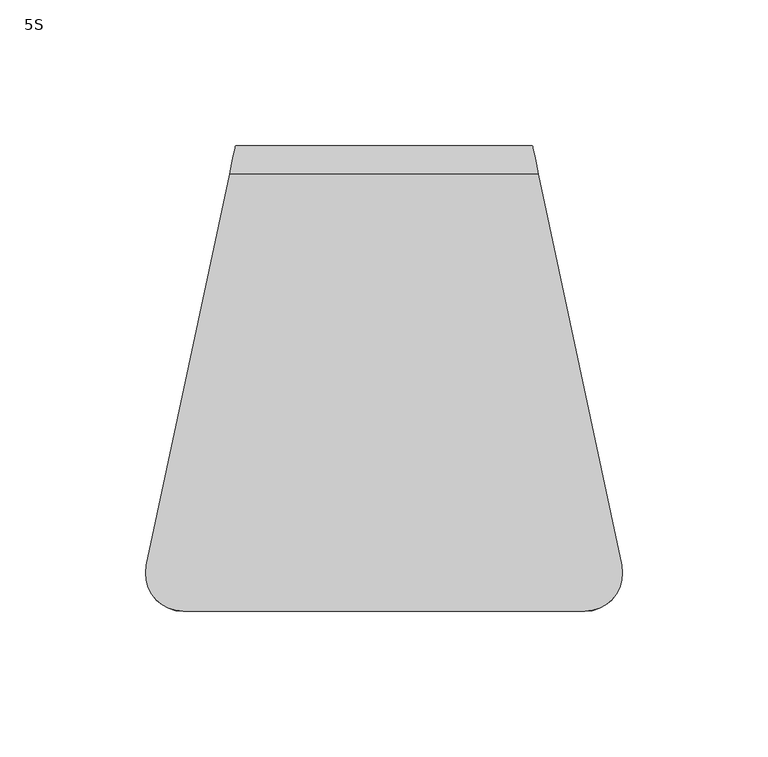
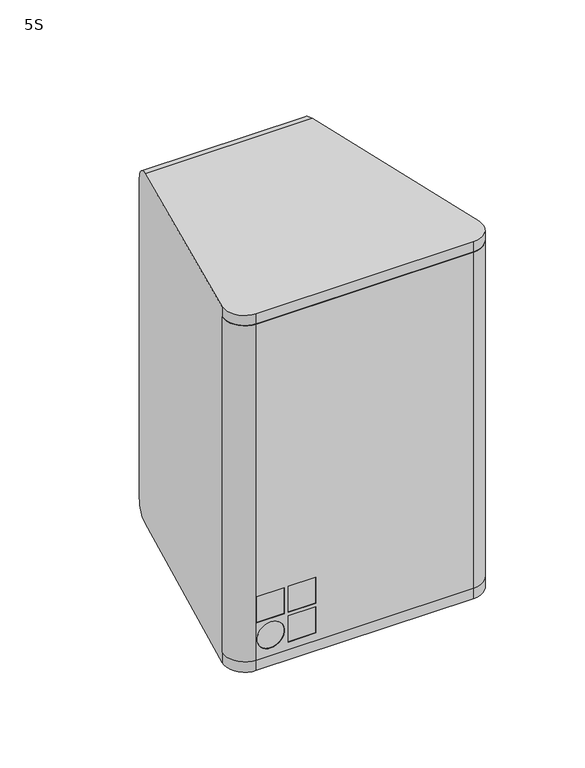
"""IFC4 building model written with IfcOpenShell, lengths in millimetres: proxy geometry, d&b xS-Series 5S Point Source : 5S."""

import ifcopenshell
import ifcopenshell.guid

model = None  # the IFC model being written
_history = None  # IfcOwnerHistory: only IFC2X3 demands one
_inside = {}  # id of a spatial element -> (the spatial element, [elements in it])
_under = {}  # id of a project, library or spatial element -> (it, [spatial elements below it])
_declared = {}  # id of a project -> (the project, [libraries it declares])
_typed = {}  # id of a type object -> (the type object, [elements of that type])
_made_of = {}  # id of a material, layer set ... -> (it, [elements and type objects made of it])


def new_model(schema):
    """Start an empty IFC model of exactly this schema.

    Asked for "IFC4X3", IfcOpenShell would pick the latest addendum, in which some entities
    have other attributes; the version numbers below select the first issue.
    IFC2X3 requires an IfcOwnerHistory on every rooted entity: one is made here for all.
    """
    global model, _history
    if schema == "IFC4X3":
        model = ifcopenshell.file(schema_version=(4, 3, 0, 0))
    else:
        model = ifcopenshell.file(schema=schema)
    _inside.clear()
    _under.clear()
    _declared.clear()
    _typed.clear()
    _made_of.clear()
    _history = None
    if model.schema == "IFC2X3":
        org = make("IfcOrganization", Name="unknown")
        user = make(
            "IfcPersonAndOrganization",
            ThePerson=make("IfcPerson", FamilyName="unknown"),
            TheOrganization=org,
        )
        app = make(
            "IfcApplication",
            ApplicationDeveloper=org,
            Version="unknown",
            ApplicationFullName="unknown",
            ApplicationIdentifier="unknown",
        )
        _history = make(
            "IfcOwnerHistory",
            OwningUser=user,
            OwningApplication=app,
            ChangeAction="ADDED",
            CreationDate=0,
        )
    return model


def make(cls, **values):
    """One entity of the class cls with the attributes given. An attribute that is None is left unset."""
    return model.create_entity(
        cls, **{name: value for name, value in values.items() if value is not None}
    )


def rooted(cls, **values):
    """An entity with a GlobalId (a new one), such as an element, a storey or a relation."""
    return make(cls, GlobalId=ifcopenshell.guid.new(), OwnerHistory=_history, **values)


def si_unit(unit_type, name, prefix=None):
    """IfcSIUnit, for example si_unit("LENGTHUNIT", "METRE", prefix="MILLI")."""
    return make("IfcSIUnit", UnitType=unit_type, Prefix=prefix, Name=name)


def assignment(units):
    """IfcUnitAssignment: the units of a project."""
    return None if units is None else make("IfcUnitAssignment", Units=units)


def point(xyz):
    """IfcCartesianPoint."""
    return None if xyz is None else make("IfcCartesianPoint", Coordinates=xyz)


def direction(xyz):
    """IfcDirection."""
    return None if xyz is None else make("IfcDirection", DirectionRatios=xyz)


def frame(location, z_axis=None, x_axis=None):
    """IfcAxis2Placement3D, a coordinate frame: its origin and axes. An axis left out is left unset."""
    return make(
        "IfcAxis2Placement3D",
        Location=point(location),
        Axis=direction(z_axis),
        RefDirection=direction(x_axis),
    )


def frame_2d(location, x_axis=None):
    """IfcAxis2Placement2D, a coordinate frame in the plane: its origin and x axis."""
    return make(
        "IfcAxis2Placement2D", Location=point(location), RefDirection=direction(x_axis)
    )


def origin():
    """The frame at (0, 0, 0) with its axes left unset."""
    return frame((0.0, 0.0, 0.0))


def place(relative_to, where):
    """IfcLocalPlacement: puts the frame where relative to a parent placement (None: the world)."""
    return make(
        "IfcLocalPlacement", PlacementRelTo=relative_to, RelativePlacement=where
    )


def context(
    kind, dimensions, precision=None, world=None, true_north=None, identifier=None
):
    """IfcGeometricRepresentationContext, for example the 3D "Model" context."""
    return make(
        "IfcGeometricRepresentationContext",
        ContextIdentifier=identifier,
        ContextType=kind,
        CoordinateSpaceDimension=dimensions,
        Precision=precision,
        WorldCoordinateSystem=world,
        TrueNorth=true_north,
    )


def project(units=None, contexts=None):
    """IfcProject with its units and contexts."""
    return rooted(
        "IfcProject",
        Name="project",
        RepresentationContexts=contexts,
        UnitsInContext=assignment(units),
    )


def spatial(cls, under=None, at=None, **own):
    """A site, building, storey or space (cls), placed at a placement, below another one or the project."""
    s = rooted(cls, ObjectPlacement=at, **own)
    if under is not None:
        _under.setdefault(under.id(), (under, []))[1].append(s)
    return s


def polyline(points):
    """IfcPolyline through the points."""
    return make("IfcPolyline", Points=[point(p) for p in points])


def circle_curve(where, radius):
    """IfcCircle in the frame where."""
    return make("IfcCircle", Position=where, Radius=radius)


def ellipse_curve(where, semi_axis1, semi_axis2):
    """IfcEllipse in the frame where."""
    return make(
        "IfcEllipse", Position=where, SemiAxis1=semi_axis1, SemiAxis2=semi_axis2
    )


def trimmed(basis, trim1, trim2, sense, master):
    """IfcTrimmedCurve: the piece of a basis curve between two trims."""
    return make(
        "IfcTrimmedCurve",
        BasisCurve=basis,
        Trim1=trim1,
        Trim2=trim2,
        SenseAgreement=sense,
        MasterRepresentation=master,
    )


def segment(curve, same_sense, transition):
    """IfcCompositeCurveSegment."""
    return make(
        "IfcCompositeCurveSegment",
        Transition=transition,
        SameSense=same_sense,
        ParentCurve=curve,
    )


def composite_curve(segments, self_intersect=None):
    """IfcCompositeCurve: segments joined end to end."""
    return make("IfcCompositeCurve", Segments=segments, SelfIntersect=self_intersect)


def outline(outer, holes=None, kind="AREA"):
    """IfcArbitraryClosedProfileDef: a profile drawn as a closed curve; with holes, ...WithVoids."""
    if holes is None:
        return make("IfcArbitraryClosedProfileDef", ProfileType=kind, OuterCurve=outer)
    return make(
        "IfcArbitraryProfileDefWithVoids",
        ProfileType=kind,
        OuterCurve=outer,
        InnerCurves=holes,
    )


def extrude(swept, where, along, depth):
    """IfcExtrudedAreaSolid: the profile swept, set in the frame where, extruded along a direction by depth."""
    return make(
        "IfcExtrudedAreaSolid",
        SweptArea=swept,
        Position=where,
        ExtrudedDirection=direction(along),
        Depth=depth,
    )


def shape(context_of_items, identifier, shape_type, items):
    """IfcShapeRepresentation: the items that make up one representation, for example the "Body"."""
    return make(
        "IfcShapeRepresentation",
        ContextOfItems=context_of_items,
        RepresentationIdentifier=identifier,
        RepresentationType=shape_type,
        Items=items,
    )


def source(mapping_origin, context_of_items, identifier, shape_type, items):
    """IfcRepresentationMap: a shape defined once, which mapped items show again and again."""
    return make(
        "IfcRepresentationMap",
        MappingOrigin=mapping_origin,
        MappedRepresentation=shape(context_of_items, identifier, shape_type, items),
    )


def transform(
    local_origin,
    x_axis=None,
    y_axis=None,
    z_axis=None,
    scale=None,
    scale2=None,
    scale3=None,
    uniform=True,
):
    """IfcCartesianTransformationOperator3D, or its non-uniform kind. x_axis, y_axis, z_axis: its Axis1, 2, 3."""
    if uniform:
        return make(
            "IfcCartesianTransformationOperator3D",
            Axis1=direction(x_axis),
            Axis2=direction(y_axis),
            LocalOrigin=point(local_origin),
            Scale=scale,
            Axis3=direction(z_axis),
        )
    return make(
        "IfcCartesianTransformationOperator3DnonUniform",
        Axis1=direction(x_axis),
        Axis2=direction(y_axis),
        LocalOrigin=point(local_origin),
        Scale=scale,
        Axis3=direction(z_axis),
        Scale2=scale2,
        Scale3=scale3,
    )


def mapped(mapping_source, mapping_target):
    """IfcMappedItem: shows the shape of a source again, moved by a transform."""
    return make(
        "IfcMappedItem", MappingSource=mapping_source, MappingTarget=mapping_target
    )


def made_of(thing, what):
    """Note that an element or type object is made of a material, layer set ...; save() writes the relation."""
    if what is not None:
        _made_of.setdefault(what.id(), (what, []))[1].append(thing)
    return thing


def element(
    cls,
    number,
    at=None,
    inside=None,
    cuts=None,
    type_object=None,
    material=None,
    context=None,
    identifier="Body",
    shape_type=None,
    held_by="IfcProductDefinitionShape",
    body=None,
    shapes=None,
    **own,
):
    """One element of the class cls, such as IfcWall. Its Tag is "e" and its number.

    at: its placement. inside: the storey or other place that contains it. cuts: it is an
    opening in that element (IfcRelVoidsElement). A single representation is given by context,
    identifier, shape_type and body (its items); several are given by shapes. held_by: the class
    of the entity that holds the representations. save() writes the other relations.
    """
    e = rooted(cls, Tag="e%d" % number, ObjectPlacement=at, **own)
    if body is not None:
        shapes = [shape(context, identifier, shape_type, body)]
    if shapes is not None:
        e.Representation = make(held_by, Representations=shapes)
    if inside is not None:
        _inside.setdefault(inside.id(), (inside, []))[1].append(e)
    if cuts is not None:
        rooted(
            "IfcRelVoidsElement", RelatingBuildingElement=cuts, RelatedOpeningElement=e
        )
    if type_object is not None:
        _typed.setdefault(type_object.id(), (type_object, []))[1].append(e)
    return made_of(e, material)


def aggregate(whole, parts):
    """IfcRelAggregates: a whole, such as a stair, and the parts it consists of."""
    return rooted("IfcRelAggregates", RelatingObject=whole, RelatedObjects=parts)


def save(model, path):
    """Write the relations noted so far, then the file.

    IfcRelAggregates (storeys below a building ...), IfcRelContainedInSpatialStructure (elements
    in a storey), IfcRelDefinesByType, IfcRelAssociatesMaterial and IfcRelDeclares: one each for
    every whole, place, type object, material and project.
    """
    for whole, parts in _under.values():
        aggregate(whole, parts)
    for where, things in _inside.values():
        rooted(
            "IfcRelContainedInSpatialStructure",
            RelatedElements=things,
            RelatingStructure=where,
        )
    for kind, things in _typed.values():
        rooted("IfcRelDefinesByType", RelatedObjects=things, RelatingType=kind)
    for what, things in _made_of.values():
        rooted("IfcRelAssociatesMaterial", RelatedObjects=things, RelatingMaterial=what)
    for by, libraries in _declared.values():
        rooted("IfcRelDeclares", RelatingContext=by, RelatedDefinitions=libraries)
    model.write(path)


def plane_surface(at):
    """IfcPlane: the flat surface through the origin of the frame at, square to its z axis."""
    return make("IfcPlane", Position=at)


def cylinder_surface(at, radius):
    """IfcCylindricalSurface: all points at the distance radius from the z axis of the frame at."""
    return make("IfcCylindricalSurface", Position=at, Radius=radius)


def revolved_surface(curve, axis_point, axis_direction):
    """IfcSurfaceOfRevolution: the curve turned about the line through axis_point along axis_direction."""
    return make(
        "IfcSurfaceOfRevolution",
        SweptCurve=make("IfcArbitraryOpenProfileDef", ProfileType="CURVE", Curve=curve),
        AxisPosition=make("IfcAxis1Placement", Location=point(axis_point), Axis=direction(axis_direction)),
    )


def advanced_brep(points, edges, surfaces, faces):
    """IfcAdvancedBrep: a solid bounded by faces that lie on surfaces and meet in shared edges.

    An edge is (start, end): straight between two places in points (the first is 0);
    or (start, end, curve); or (start, end, curve, False) where it runs against its curve.
    A face is (place in surfaces, loops), or (place, loops, False) where it looks against
    its surface's normal. A loop lists edges by number (the first is 1), with a minus sign
    where the edge is run from its end to its start. The first loop is the outer one.
    """
    corners = [point(p) for p in points]
    vertices = [make("IfcVertexPoint", VertexGeometry=c) for c in corners]
    made = []
    for start, end, *more in edges:
        made.append(
            make(
                "IfcEdgeCurve",
                EdgeStart=vertices[start],
                EdgeEnd=vertices[end],
                EdgeGeometry=more[0] if more else make("IfcPolyline", Points=[corners[start], corners[end]]),
                SameSense=more[1] if len(more) > 1 else True,
            )
        )
    hull = []
    for where, loops, *sense in faces:
        bounds = []
        for j, loop in enumerate(loops):
            ring = [make("IfcOrientedEdge", EdgeElement=made[abs(k) - 1], Orientation=k > 0) for k in loop]
            bounds.append(
                make(
                    "IfcFaceOuterBound" if j == 0 else "IfcFaceBound",
                    Bound=make("IfcEdgeLoop", EdgeList=ring),
                    Orientation=True,
                )
            )
        hull.append(make("IfcAdvancedFace", Bounds=bounds, FaceSurface=surfaces[where], SameSense=sense[0] if sense else True))
    return make("IfcAdvancedBrep", Outer=make("IfcClosedShell", CfsFaces=hull))


def proxy_5s_5bde0faa(model_context):
    return source(origin(), model_context, "Body", "SolidModel", [
        extrude(outline(composite_curve([segment(trimmed(circle_curve(frame_2d((-68.946337, -67.0)), 8.0), [point((-68.946337, -75.0))], [point((-76.475918, -64.297148))], False, "CARTESIAN"), True, "CONTINUOUS"), segment(polyline([(-76.475918, -64.297148), (76.475918, -64.297148)]), True, "CONTINUOUS"), segment(trimmed(circle_curve(frame_2d((68.946337, -67.0)), 8.0), [point((76.475918, -64.297148))], [point((68.946337, -75.0))], False, "CARTESIAN"), True, "CONTINUOUS"), segment(polyline([(68.946337, -75.0), (-68.946337, -75.0)]), True, "CONTINUOUS")], self_intersect=False)), frame((0.0, 0.0, -112.9284482), z_axis=(0.0, 0.0, 1.0), x_axis=(1.0, 0.0, 0.0)), (0.0, 0.0, 1.0), 225.8568964),
        advanced_brep(
        [(-51.146337, -80.0, -70.4284482), (-51.146337, -75.0, -70.4284482), (-51.146337, -75.0, -87.9284482), (-51.146337, -80.0, -87.9284482), (-68.646337, -75.0, -87.9284482), (-68.646337, -80.0, -87.9284482), (-68.646337, -75.0, -70.4284482), (-68.646337, -80.0, -70.4284482), (-31.146337, -80.0, -70.4284482), (-31.146337, -75.0, -70.4284482), (-31.146337, -75.0, -87.9284482), (-31.146337, -80.0, -87.9284482), (-48.646337, -75.0, -87.9284482), (-48.646337, -80.0, -87.9284482), (-48.646337, -75.0, -70.4284482), (-48.646337, -80.0, -70.4284482), (-31.146337, -80.0, -90.4284482), (-31.146337, -75.0, -90.4284482), (-31.146337, -75.0, -107.9284482), (-31.146337, -80.0, -107.9284482), (-48.646337, -75.0, -107.9284482), (-48.646337, -80.0, -107.9284482), (-48.646337, -75.0, -90.4284482), (-48.646337, -80.0, -90.4284482), (-59.896337, -80.0, -107.9284482), (-59.896337, -75.0, -107.9284482), (-59.896337, -75.0, -90.4284482), (-59.896337, -80.0, -90.4284482), (-68.946337, -80.0, 112.9284482), (68.946337, -80.0, 112.9284482), (81.6622558, -64.297148, 112.9284482), (76.475918, -64.297148, 112.9284482), (68.946337, -75.0, 112.9284482), (-68.946337, -75.0, 112.9284482), (-76.475918, -64.297148, 112.9284482), (-81.6622558, -64.297148, 112.9284482), (-68.946337, -80.0, -112.9284482), (-81.6622558, -64.297148, -112.9284482), (-76.475918, -64.297148, -112.9284482), (-68.946337, -75.0, -112.9284482), (68.946337, -75.0, -112.9284482), (76.475918, -64.297148, -112.9284482), (81.6622558, -64.297148, -112.9284482), (68.946337, -80.0, -112.9284482)],
        [
            (0, 1),
            (1, 2),
            (2, 3),
            (3, 0),
            (2, 4),
            (4, 5),
            (5, 3),
            (4, 6),
            (6, 7),
            (7, 5),
            (0, 7),
            (6, 1),
            (8, 9),
            (9, 10),
            (10, 11),
            (11, 8),
            (10, 12),
            (12, 13),
            (13, 11),
            (12, 14),
            (14, 15),
            (15, 13),
            (8, 15),
            (14, 9),
            (16, 17),
            (17, 18),
            (18, 19),
            (19, 16),
            (18, 20),
            (20, 21),
            (21, 19),
            (20, 22),
            (22, 23),
            (23, 21),
            (16, 23),
            (22, 17),
            (24, 25),
            (25, 26, circle_curve(frame((-59.896337, -75.0, -99.1784482), z_axis=(0.0, 1.0, 0.0), x_axis=(0.0, 0.0, 1.0)), 8.75)),
            (26, 27),
            (27, 24, circle_curve(frame((-59.896337, -80.0, -99.1784482), z_axis=(0.0, -1.0, 0.0), x_axis=(0.0, 0.0, 1.0)), 8.75)),
            (24, 27, circle_curve(frame((-59.896337, -80.0, -99.1784482), z_axis=(0.0, -1.0, 0.0), x_axis=(0.0, 0.0, 1.0)), 8.75)),
            (26, 25, circle_curve(frame((-59.896337, -75.0, -99.1784482), z_axis=(0.0, 1.0, 0.0), x_axis=(0.0, 0.0, 1.0)), 8.75)),
            (28, 29),
            (29, 30, circle_curve(frame((68.946337, -67.0, 112.9284482), z_axis=(0.0, 0.0, 1.0), x_axis=(0.0, -1.0, 0.0)), 13.0)),
            (30, 31),
            (31, 32, circle_curve(frame((68.946337, -67.0, 112.9284482), z_axis=(0.0, 0.0, -1.0), x_axis=(0.0, -1.0, 0.0)), 8.0)),
            (32, 33),
            (33, 34, circle_curve(frame((-68.946337, -67.0, 112.9284482), z_axis=(0.0, 0.0, -1.0), x_axis=(0.0, -1.0, 0.0)), 8.0)),
            (34, 35),
            (35, 28, circle_curve(frame((-68.946337, -67.0, 112.9284482), z_axis=(0.0, 0.0, 1.0), x_axis=(0.0, -1.0, 0.0)), 13.0)),
            (36, 37, circle_curve(frame((-68.946337, -67.0, -112.9284482), z_axis=(0.0, 0.0, -1.0), x_axis=(0.0, -1.0, 0.0)), 13.0)),
            (37, 38),
            (38, 39, circle_curve(frame((-68.946337, -67.0, -112.9284482), z_axis=(0.0, 0.0, 1.0), x_axis=(0.0, -1.0, 0.0)), 8.0)),
            (39, 40),
            (40, 41, circle_curve(frame((68.946337, -67.0, -112.9284482), z_axis=(0.0, 0.0, 1.0), x_axis=(0.0, -1.0, 0.0)), 8.0)),
            (41, 42),
            (42, 43, circle_curve(frame((68.946337, -67.0, -112.9284482), z_axis=(0.0, 0.0, -1.0), x_axis=(0.0, -1.0, 0.0)), 13.0)),
            (43, 36),
            (28, 36),
            (43, 29),
            (42, 30),
            (41, 31),
            (40, 32),
            (39, 33),
            (38, 34),
            (37, 35),
        ],
        [
            plane_surface(frame((-51.146337, -80.0, -87.9284482), z_axis=(-1.0, 0.0, 0.0), x_axis=(0.0, 1.0, 0.0))),
            plane_surface(frame((-68.646337, -80.0, -87.9284482), z_axis=(0.0, 0.0, 1.0), x_axis=(0.0, 1.0, 0.0))),
            plane_surface(frame((-68.646337, -80.0, -70.4284482), z_axis=(1.0, 0.0, 0.0), x_axis=(0.0, 1.0, 0.0))),
            plane_surface(frame((-51.146337, -80.0, -70.4284482), z_axis=(0.0, 0.0, -1.0), x_axis=(0.0, 1.0, 0.0))),
            plane_surface(frame((-31.146337, -80.0, -87.9284482), z_axis=(-1.0, 0.0, 0.0), x_axis=(0.0, 1.0, 0.0))),
            plane_surface(frame((-48.646337, -80.0, -87.9284482), z_axis=(0.0, 0.0, 1.0), x_axis=(0.0, 1.0, 0.0))),
            plane_surface(frame((-48.646337, -80.0, -70.4284482), z_axis=(1.0, 0.0, 0.0), x_axis=(0.0, 1.0, 0.0))),
            plane_surface(frame((-31.146337, -80.0, -70.4284482), z_axis=(0.0, 0.0, -1.0), x_axis=(0.0, 1.0, 0.0))),
            plane_surface(frame((-31.146337, -80.0, -107.9284482), z_axis=(-1.0, 0.0, 0.0), x_axis=(0.0, 1.0, 0.0))),
            plane_surface(frame((-48.646337, -80.0, -107.9284482), z_axis=(0.0, 0.0, 1.0), x_axis=(0.0, 1.0, 0.0))),
            plane_surface(frame((-48.646337, -80.0, -90.4284482), z_axis=(1.0, 0.0, 0.0), x_axis=(0.0, 1.0, 0.0))),
            plane_surface(frame((-31.146337, -80.0, -90.4284482), z_axis=(0.0, 0.0, -1.0), x_axis=(0.0, 1.0, 0.0))),
            revolved_surface(polyline([(-59.896337, -80.0, -90.4284482), (-59.896337, -75.0, -90.4284482)]), (-59.896337, -142.2477083, -99.1784482), (0.0, -1.0, 0.0)),
            plane_surface(frame((68.946337, -80.0, 112.9284482), z_axis=(0.0, 0.0, 1.0), x_axis=(1.0, 0.0, 0.0))),
            plane_surface(frame((68.946337, -80.0, -112.9284482), z_axis=(0.0, 0.0, -1.0), x_axis=(-1.0, 0.0, 0.0))),
            plane_surface(frame((-68.946337, -80.0, 112.9284482), z_axis=(0.0, -1.0, 0.0), x_axis=(0.0, 0.0, -1.0))),
            cylinder_surface(frame((68.946337, -67.0, -112.9284482), z_axis=(0.0, 0.0, 1.0), x_axis=(0.0, -1.0, 0.0)), 13.0),
            plane_surface(frame((81.6622558, -64.297148, 112.9284482), z_axis=(0.0, 1.0, 0.0), x_axis=(0.0, 0.0, -1.0))),
            revolved_surface(polyline([(68.946337, -75.0, -112.9284482), (68.946337, -75.0, 112.9284482)]), (68.946337, -67.0, -112.9284482), (0.0, 0.0, -1.0)),
            plane_surface(frame((68.946337, -75.0, 112.9284482), z_axis=(0.0, 1.0, 0.0), x_axis=(0.0, 0.0, -1.0))),
            revolved_surface(polyline([(-68.946337, -75.0, -112.9284482), (-68.946337, -75.0, 112.9284482)]), (-68.946337, -67.0, -112.9284482), (0.0, 0.0, -1.0)),
            plane_surface(frame((-76.475918, -64.297148, 112.9284482), z_axis=(0.0, 1.0, 0.0), x_axis=(0.0, 0.0, -1.0))),
            cylinder_surface(frame((-68.946337, -67.0, -112.9284482), z_axis=(0.0, 0.0, 1.0), x_axis=(0.0, -1.0, 0.0)), 13.0),
        ],
        [
            (0, [[1, 2, 3, 4]]),
            (1, [[-3, 5, 6, 7]]),
            (2, [[-6, 8, 9, 10]]),
            (3, [[-1, 11, -9, 12]]),
            (4, [[13, 14, 15, 16]]),
            (5, [[-15, 17, 18, 19]]),
            (6, [[-18, 20, 21, 22]]),
            (7, [[-13, 23, -21, 24]]),
            (8, [[25, 26, 27, 28]]),
            (9, [[-27, 29, 30, 31]]),
            (10, [[-30, 32, 33, 34]]),
            (11, [[-25, 35, -33, 36]]),
            (12, [[37, 38, 39, 40]]),
            (12, [[-37, 41, -39, 42]]),
            (13, [[43, 44, 45, 46, 47, 48, 49, 50]]),
            (14, [[51, 52, 53, 54, 55, 56, 57, 58]]),
            (15, [[-43, 59, -58, 60], [-4, -7, -10, -11], [-16, -19, -22, -23], [-28, -31, -34, -35], [-40, -41]]),
            (16, [[-44, -60, -57, 61]]),
            (17, [[-45, -61, -56, 62]]),
            (18, [[-46, -62, -55, 63]]),
            (19, [[-47, -63, -54, 64], [-2, -12, -8, -5], [-14, -24, -20, -17], [-26, -36, -32, -29], [-38, -42]]),
            (20, [[-48, -64, -53, 65]]),
            (21, [[-49, -65, -52, 66]]),
            (22, [[-50, -66, -51, -59]]),
        ],
    ),
        extrude(outline(polyline([(-51.146337, -80.0), (-68.646337, -80.0), (-68.646337, -75.0), (-51.146337, -75.0), (-51.146337, -80.0)])), frame((0.0, 0.0, -87.9284482), z_axis=(0.0, 0.0, 1.0), x_axis=(1.0, 0.0, 0.0)), (0.0, 0.0, 1.0), 17.5),
        extrude(outline(polyline([(-31.146337, -80.0), (-48.646337, -80.0), (-48.646337, -75.0), (-31.146337, -75.0), (-31.146337, -80.0)])), frame((0.0, 0.0, -87.9284482), z_axis=(0.0, 0.0, 1.0), x_axis=(1.0, 0.0, 0.0)), (0.0, 0.0, 1.0), 17.5),
        extrude(outline(polyline([(-31.146337, -80.0), (-48.646337, -80.0), (-48.646337, -75.0), (-31.146337, -75.0), (-31.146337, -80.0)])), frame((0.0, 0.0, -107.9284482), z_axis=(0.0, 0.0, 1.0), x_axis=(1.0, 0.0, 0.0)), (0.0, 0.0, 1.0), 17.5),
        extrude(outline(composite_curve([segment(trimmed(circle_curve(frame_2d((-99.1784482, -59.896337)), 8.75), [point((-107.9284482, -59.896337))], [point((-90.4284482, -59.896337))], False, "CARTESIAN"), True, "CONTINUOUS"), segment(trimmed(circle_curve(frame_2d((-99.1784482, -59.896337)), 8.75), [point((-90.4284482, -59.896337))], [point((-107.9284482, -59.896337))], False, "CARTESIAN"), True, "CONTINUOUS")], self_intersect=False)), frame((0.0, -80.0, 0.0), z_axis=(0.0, 1.0, 0.0), x_axis=(0.0, 0.0, 1.0)), (0.0, 0.0, 1.0), 5.0),
        advanced_brep(
        [(-23.0610927, 77.0, 102.0610927), (-18.0610927, 77.0, 107.0610927), (18.0610927, 77.0, 107.0610927), (23.0610927, 77.0, 102.0610927), (23.0610927, 77.0, 10.9389073), (18.0610927, 77.0, 5.9389073), (-18.0610927, 77.0, 5.9389073), (-23.0610927, 77.0, 10.9389073), (-16.4913486, 77.0, 7.5086514), (16.4913486, 77.0, 7.5086514), (21.4913486, 77.0, 12.5086514), (21.4913486, 77.0, 39.9195498), (-21.4913486, 77.0, 39.9195498), (-21.4913486, 77.0, 12.5086514), (-23.0610927, 80.0, 102.0610927), (-18.0610927, 80.0, 107.0610927), (18.0610927, 80.0, 107.0610927), (23.0610927, 80.0, 102.0610927), (23.0610927, 80.0, 10.9389073), (18.0610927, 80.0, 5.9389073), (-18.0610927, 80.0, 5.9389073), (-23.0610927, 80.0, 10.9389073), (16.4913486, 61.0, 7.5086514), (-16.4913486, 61.0, 7.5086514), (-21.4913486, 61.0, 12.5086514), (-21.4913486, 61.0, 39.9195498), (21.4913486, 61.0, 39.9195498), (21.4913486, 61.0, 12.5086514), (-68.946337, -80.0, 112.9284482), (-81.6622558, -64.297148, 112.9284482), (81.6622558, -64.297148, 112.9284482), (68.946337, -80.0, 112.9284482), (-68.946337, -80.0, -112.9284482), (68.946337, -80.0, -112.9284482), (81.6622558, -64.297148, -112.9284482), (-81.6622558, -64.297148, -112.9284482), (-81.6622558, -64.297148, 119.6783726), (-53.0826694, 70.1592347, 117.5370892), (-50.9909501, 80.0, 107.5383571), (-50.9909501, 80.0, -107.5383571), (-53.0826694, 70.1592347, -117.5370892), (-81.6622558, -64.297148, -119.6783726), (50.9909501, 80.0, 107.5383571), (50.9909501, 80.0, -107.5383571), (81.6622558, -64.297148, -119.6783726), (53.0826694, 70.1592347, -117.5370892), (53.0826694, 70.1592347, 117.5370892), (81.6622558, -64.297148, 119.6783726), (68.946337, -80.0, 119.9284482), (-68.946337, -80.0, 119.9284482), (-68.946337, -80.0, -119.9284482), (68.946337, -80.0, -119.9284482)],
        [
            (0, 1, circle_curve(frame((-18.0610927, 77.0, 102.0610927), z_axis=(0.0, 1.0, 0.0), x_axis=(-1.0, 0.0, 0.0)), 5.0)),
            (1, 2),
            (2, 3, circle_curve(frame((18.0610927, 77.0, 102.0610927), z_axis=(0.0, 1.0, 0.0), x_axis=(-1.0, 0.0, 0.0)), 5.0)),
            (3, 4),
            (4, 5, circle_curve(frame((18.0610927, 77.0, 10.9389073), z_axis=(0.0, 1.0, 0.0), x_axis=(-1.0, 0.0, 0.0)), 5.0)),
            (5, 6),
            (6, 7, circle_curve(frame((-18.0610927, 77.0, 10.9389073), z_axis=(0.0, 1.0, 0.0), x_axis=(-1.0, 0.0, 0.0)), 5.0)),
            (7, 0),
            (8, 9),
            (9, 10, circle_curve(frame((16.4913486, 77.0, 12.5086514), z_axis=(0.0, -1.0, 0.0), x_axis=(-1.0, 0.0, 0.0)), 5.0)),
            (10, 11),
            (11, 12),
            (12, 13),
            (13, 8, circle_curve(frame((-16.4913486, 77.0, 12.5086514), z_axis=(0.0, -1.0, 0.0), x_axis=(-1.0, 0.0, 0.0)), 5.0)),
            (0, 14),
            (14, 15, circle_curve(frame((-18.0610927, 80.0, 102.0610927), z_axis=(0.0, 1.0, 0.0), x_axis=(-1.0, 0.0, 0.0)), 5.0)),
            (15, 1),
            (15, 16),
            (16, 2),
            (16, 17, circle_curve(frame((18.0610927, 80.0, 102.0610927), z_axis=(0.0, 1.0, 0.0), x_axis=(-1.0, 0.0, 0.0)), 5.0)),
            (17, 3),
            (17, 18),
            (18, 4),
            (18, 19, circle_curve(frame((18.0610927, 80.0, 10.9389073), z_axis=(0.0, 1.0, 0.0), x_axis=(-1.0, 0.0, 0.0)), 5.0)),
            (19, 5),
            (19, 20),
            (20, 6),
            (20, 21, circle_curve(frame((-18.0610927, 80.0, 10.9389073), z_axis=(0.0, 1.0, 0.0), x_axis=(-1.0, 0.0, 0.0)), 5.0)),
            (21, 7),
            (21, 14),
            (22, 23),
            (23, 24, circle_curve(frame((-16.4913486, 61.0, 12.5086514), z_axis=(0.0, 1.0, 0.0), x_axis=(-1.0, 0.0, 0.0)), 5.0)),
            (24, 25),
            (25, 26),
            (26, 27),
            (27, 22, circle_curve(frame((16.4913486, 61.0, 12.5086514), z_axis=(0.0, 1.0, 0.0), x_axis=(-1.0, 0.0, 0.0)), 5.0)),
            (28, 29, circle_curve(frame((-68.946337, -67.0, 112.9284482), z_axis=(0.0, 0.0, -1.0), x_axis=(0.0, -1.0, 0.0)), 13.0)),
            (29, 30),
            (30, 31, circle_curve(frame((68.946337, -67.0, 112.9284482), z_axis=(0.0, 0.0, -1.0), x_axis=(0.0, -1.0, 0.0)), 13.0)),
            (31, 28),
            (32, 33),
            (33, 34, circle_curve(frame((68.946337, -67.0, -112.9284482), z_axis=(0.0, 0.0, 1.0), x_axis=(0.0, -1.0, 0.0)), 13.0)),
            (34, 35),
            (35, 32, circle_curve(frame((-68.946337, -67.0, -112.9284482), z_axis=(0.0, 0.0, 1.0), x_axis=(0.0, -1.0, 0.0)), 13.0)),
            (22, 9),
            (8, 23),
            (13, 24),
            (12, 25),
            (11, 26),
            (10, 27),
            (29, 35),
            (34, 30),
            (29, 36),
            (36, 37),
            (37, 38, ellipse_curve(frame((-53.1165157, 70.0, 107.5383571), z_axis=(-0.9781476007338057, 0.20791169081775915, 0.0), x_axis=(-0.20791169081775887, -0.9781476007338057, 0.0)), 10.2234059, 10.0)),
            (38, 39),
            (39, 40, ellipse_curve(frame((-53.1165157, 70.0, -107.5383571), z_axis=(-0.9781476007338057, 0.20791169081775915, 0.0), x_axis=(-0.20791169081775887, -0.9781476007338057, 0.0)), 10.2234059, 10.0)),
            (40, 41),
            (41, 35),
            (38, 42),
            (42, 43),
            (43, 39),
            (34, 44),
            (44, 45),
            (45, 43, ellipse_curve(frame((53.1165157, 70.0, -107.5383571), z_axis=(0.9781476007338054, 0.2079116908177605, 0.0), x_axis=(-0.20791169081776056, 0.9781476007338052, 0.0)), 10.2234059, 10.0)),
            (42, 46, ellipse_curve(frame((53.1165157, 70.0, 107.5383571), z_axis=(0.9781476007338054, 0.2079116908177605, 0.0), x_axis=(-0.20791169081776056, 0.9781476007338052, 0.0)), 10.2234059, 10.0)),
            (46, 47),
            (47, 30),
            (31, 48),
            (48, 49),
            (49, 28),
            (47, 48, ellipse_curve(frame((68.946337, -67.0, 119.7214169), z_axis=(0.0, -0.015923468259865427, -0.9998732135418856), x_axis=(0.0, -0.9998732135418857, 0.01592346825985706)), 13.0016484, 13.0)),
            (49, 36, ellipse_curve(frame((-68.946337, -67.0, 119.7214169), z_axis=(0.0, -0.015923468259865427, -0.9998732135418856), x_axis=(0.0, -0.9998732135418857, 0.01592346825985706)), 13.0016484, 13.0)),
            (32, 50),
            (50, 51),
            (51, 33),
            (51, 44, ellipse_curve(frame((68.946337, -67.0, -119.7214169), z_axis=(0.0, -0.015923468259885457, 0.9998732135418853), x_axis=(0.0, 0.9998732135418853, 0.015923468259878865)), 13.0016484, 13.0)),
            (41, 50, ellipse_curve(frame((-68.946337, -67.0, -119.7214169), z_axis=(0.0, -0.015923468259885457, 0.9998732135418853), x_axis=(0.0, 0.9998732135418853, 0.015923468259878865)), 13.0016484, 13.0)),
            (46, 37),
            (40, 45),
        ],
        [
            plane_surface(frame((-23.0610927, 77.0, 102.0610927), z_axis=(0.0, 1.0, 0.0), x_axis=(0.0, 0.0, -1.0))),
            revolved_surface(polyline([(-23.0610927, 80.0, 102.0610927), (-23.0610927, 77.0, 102.0610927)]), (-18.0610927, 77.0, 102.0610927), (0.0, 1.0, 0.0)),
            plane_surface(frame((-18.0610927, 80.0, 107.0610927), z_axis=(0.0, 0.0, -1.0), x_axis=(0.0, -1.0, 0.0))),
            revolved_surface(polyline([(13.0610927, 80.0, 102.0610927), (13.0610927, 77.0, 102.0610927)]), (18.0610927, 77.0, 102.0610927), (0.0, 1.0, 0.0)),
            plane_surface(frame((23.0610927, 80.0, 102.0610927), z_axis=(-1.0, 0.0, 0.0), x_axis=(0.0, -1.0, 0.0))),
            revolved_surface(polyline([(13.0610927, 80.0, 10.9389073), (13.0610927, 77.0, 10.9389073)]), (18.0610927, 77.0, 10.9389073), (0.0, 1.0, 0.0)),
            plane_surface(frame((18.0610927, 80.0, 5.9389073), z_axis=(0.0, 0.0, 1.0), x_axis=(0.0, -1.0, 0.0))),
            revolved_surface(polyline([(-23.0610927, 80.0, 10.9389073), (-23.0610927, 77.0, 10.9389073)]), (-18.0610927, 77.0, 10.9389073), (0.0, 1.0, 0.0)),
            plane_surface(frame((-23.0610927, 80.0, 10.9389073), z_axis=(1.0, 0.0, 0.0), x_axis=(0.0, -1.0, 0.0))),
            plane_surface(frame((-10.0, 61.0, 7.5086514), z_axis=(0.0, 1.0, 0.0), x_axis=(1.0, 0.0, 0.0))),
            plane_surface(frame((68.946337, -80.0, 112.9284482), z_axis=(0.0, 0.0, -1.0), x_axis=(-1.0, 0.0, 0.0))),
            plane_surface(frame((68.946337, -80.0, -112.9284482), z_axis=(0.0, 0.0, 1.0), x_axis=(1.0, 0.0, 0.0))),
            plane_surface(frame((16.4913486, 80.0, 7.5086514), z_axis=(0.0, 0.0, 1.0), x_axis=(0.0, -1.0, 0.0))),
            revolved_surface(polyline([(-21.4913486, 77.0, 12.5086514), (-21.4913486, 61.0, 12.5086514)]), (-16.4913486, 61.0, 12.5086514), (0.0, 1.0, 0.0)),
            plane_surface(frame((-21.4913486, 80.0, 12.5086514), z_axis=(1.0, 0.0, 0.0), x_axis=(0.0, -1.0, 0.0))),
            plane_surface(frame((-21.4913486, 80.0, 39.9195498), z_axis=(0.0, 0.0, -1.0), x_axis=(0.0, -1.0, 0.0))),
            plane_surface(frame((21.4913486, 80.0, 39.9195498), z_axis=(-1.0, 0.0, 0.0), x_axis=(0.0, -1.0, 0.0))),
            revolved_surface(polyline([(11.491348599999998, 77.0, 12.5086514), (11.491348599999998, 61.0, 12.5086514)]), (16.4913486, 61.0, 12.5086514), (0.0, 1.0, 0.0)),
            plane_surface(frame((81.6622558, -64.297148, -119.9284482), z_axis=(0.0, -1.0, 0.0), x_axis=(0.0, 0.0, 1.0))),
            plane_surface(frame((-81.6622558, -64.297148, -119.9284482), z_axis=(-0.9781476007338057, 0.20791169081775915, 0.0), x_axis=(0.0, 0.0, 1.0))),
            plane_surface(frame((-50.9909501, 80.0, -119.9284482), z_axis=(0.0, 1.0, 0.0), x_axis=(0.0, 0.0, 1.0))),
            plane_surface(frame((50.9909501, 80.0, -119.9284482), z_axis=(0.9781476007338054, 0.2079116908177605, 0.0), x_axis=(0.0, 0.0, 1.0))),
            plane_surface(frame((-68.946337, -80.0, 119.9284482), z_axis=(0.0, -1.0, 0.0), x_axis=(0.0, 0.0, -1.0))),
            cylinder_surface(frame((68.946337, -67.0, 112.9284482), z_axis=(0.0, 0.0, 1.0), x_axis=(0.0, -1.0, 0.0)), 13.0),
            cylinder_surface(frame((-68.946337, -67.0, 112.9284482), z_axis=(0.0, 0.0, 1.0), x_axis=(0.0, -1.0, 0.0)), 13.0),
            plane_surface(frame((-68.946337, -80.0, -112.9284482), z_axis=(0.0, -1.0, 0.0), x_axis=(0.0, 0.0, -1.0))),
            cylinder_surface(frame((68.946337, -67.0, -119.9284482), z_axis=(0.0, 0.0, 1.0), x_axis=(0.0, -1.0, 0.0)), 13.0),
            cylinder_surface(frame((-68.946337, -67.0, -119.9284482), z_axis=(0.0, 0.0, 1.0), x_axis=(0.0, -1.0, 0.0)), 13.0),
            plane_surface(frame((100.0, -80.0, 119.9284482), z_axis=(0.0, 0.015923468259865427, 0.9998732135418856), x_axis=(-1.0, 0.0, 0.0))),
            plane_surface(frame((100.0, 70.1592347, -117.5370892), z_axis=(0.0, 0.015923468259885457, -0.9998732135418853), x_axis=(-1.0, 0.0, 0.0))),
            cylinder_surface(frame((-100.0, 70.0, 107.5383571), z_axis=(-1.0, 0.0, 0.0), x_axis=(0.0, 1.0, 0.0)), 10.0),
            cylinder_surface(frame((0.0, 70.0, -107.5383571), z_axis=(-1.0, 0.0, 0.0), x_axis=(0.0, 1.0, 0.0)), 10.0),
        ],
        [
            (0, [[1, 2, 3, 4, 5, 6, 7, 8], [9, 10, 11, 12, 13, 14]]),
            (1, [[-1, 15, 16, 17]]),
            (2, [[-2, -17, 18, 19]]),
            (3, [[-3, -19, 20, 21]]),
            (4, [[-4, -21, 22, 23]]),
            (5, [[-5, -23, 24, 25]]),
            (6, [[-6, -25, 26, 27]]),
            (7, [[-7, -27, 28, 29]]),
            (8, [[-8, -29, 30, -15]]),
            (9, [[31, 32, 33, 34, 35, 36]]),
            (10, [[37, 38, 39, 40]]),
            (11, [[41, 42, 43, 44]]),
            (12, [[-31, 45, -9, 46]]),
            (13, [[-32, -46, -14, 47]]),
            (14, [[-33, -47, -13, 48]]),
            (15, [[-34, -48, -12, 49]]),
            (16, [[-35, -49, -11, 50]]),
            (17, [[-36, -50, -10, -45]]),
            (18, [[-38, 51, -43, 52]]),
            (19, [[-51, 53, 54, 55, 56, 57, 58, 59]]),
            (20, [[-56, 60, 61, 62], [-16, -30, -28, -26, -24, -22, -20, -18]]),
            (21, [[-52, 63, 64, 65, -61, 66, 67, 68]]),
            (22, [[-40, 69, 70, 71]]),
            (23, [[-39, -68, 72, -69]]),
            (24, [[-37, -71, 73, -53]]),
            (25, [[-41, 74, 75, 76]]),
            (26, [[-42, -76, 77, -63]]),
            (27, [[-44, -59, 78, -74]]),
            (28, [[79, -54, -73, -70, -72, -67]]),
            (29, [[80, -64, -77, -75, -78, -58]]),
            (30, [[-79, -66, -60, -55]]),
            (31, [[-80, -57, -62, -65]]),
        ],
    ),
    ])


if __name__ == "__main__":
    model = new_model("IFC4")
    model_context = context("Model", 3, world=origin())
    ifc_project = project(units=[si_unit("LENGTHUNIT", "METRE", prefix="MILLI")], contexts=[model_context])
    site = spatial("IfcSite", under=ifc_project)
    building = spatial("IfcBuilding", under=site)
    placement = place(None, origin())
    proxy_5s_shape = proxy_5s_5bde0faa(model_context)
    element("IfcBuildingElementProxy", 1, Name="d&b xS-Series 5S Point Source : 5S", ObjectType="d&b xS-Series 5S Point Source : 5S", at=placement, inside=building, context=model_context, shape_type="MappedRepresentation", body=[
        mapped(proxy_5s_shape, transform((0.0, 0.0, 0.0), x_axis=(1.0, 0.0, 0.0), y_axis=(0.0, 1.0, 0.0), z_axis=(0.0, 0.0, 1.0))),
    ])
    save(model, "model.ifc")
